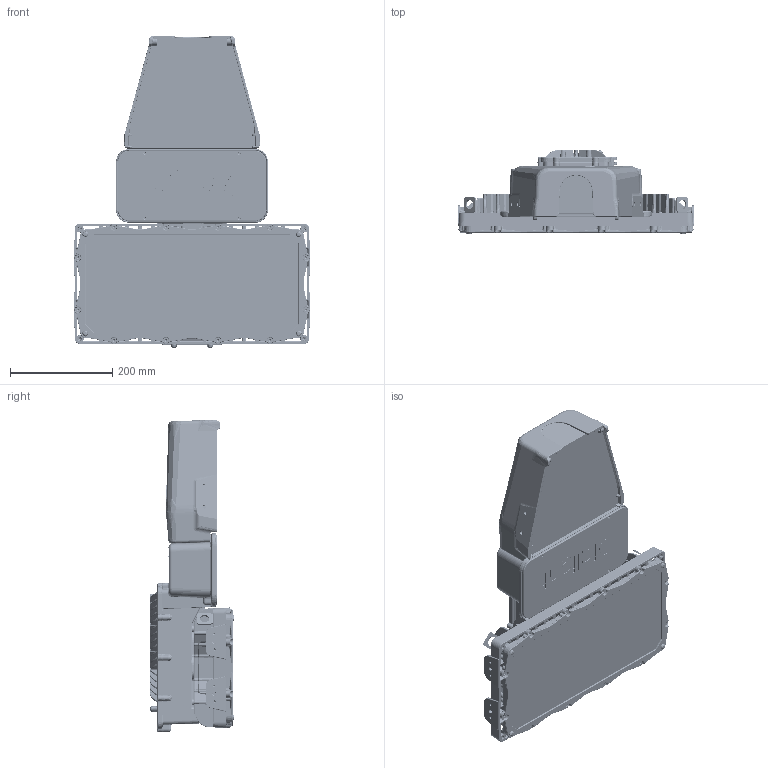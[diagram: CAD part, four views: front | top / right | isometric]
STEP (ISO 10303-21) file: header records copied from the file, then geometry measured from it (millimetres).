
FILE_DESCRIPTION((''),'2;1');
FILE_NAME('8F1X_MAST_ARM_PC_MARKETING_ASM','2024-08-22T12:12:20',('cwang'),(''),'CREO PARAMETRIC BY PTC INC, 2021304','CREO PARAMETRIC BY PTC INC, 2021304','');
FILE_SCHEMA(('CONFIG_CONTROL_DESIGN'));
Products named in the file (22): 0000690301; 0000690295_ASM; 0000690311; 0000690312; 0000690296_ASM; 0000690310; 0000690313; 0000690316; 0000690307; 0000690317; 0000690297_ASM; 0000690318; 0000690320; 0000690298_ASM; 0000690321; 0000690299_ASM; 0000690323; 0000690324; 0000690300_ASM; 0000690327; 0000690333; 8F1X_MAST_ARM_PC_MARKETING_ASM
Assembly tree (36 placements, depth 3):
  8F1X_MAST_ARM_PC_MARKETING_ASM
    0000690301
    0000690295_ASM
    0000690311
    0000690296_ASM
      0000690312
    0000690310
    0000690313
    0000690316  x3
    0000690307  x3
    0000690297_ASM
      0000690317
    0000690318  x2
    0000690298_ASM
      0000690320
    0000690299_ASM
      0000690321
    0000690323
    0000690300_ASM
      0000690324
    0000690327  x6
    0000690333  x6
Bounding box: 462.38 x 165.15 x 610.35 mm (x, y, z)
Volume: 13160037.5 mm3; surface area: 1632709.2 mm2
Topology: 24 solids, 222 shells, 15275 faces, 37393 edges, 22132 vertices
Faces by surface type: bspline 5160, cylinder 4510, plane 2487, torus 1491, cone 1285, sphere 326, extrusion 16
Entity records: 855878 total; most frequent: CARTESIAN_POINT 548662, ORIENTED_EDGE 70629, DIRECTION 53980, EDGE_CURVE 35767, AXIS2_PLACEMENT_3D 21649, VERTEX_POINT 21303, EDGE_LOOP 15304, FACE_OUTER_BOUND 14829
